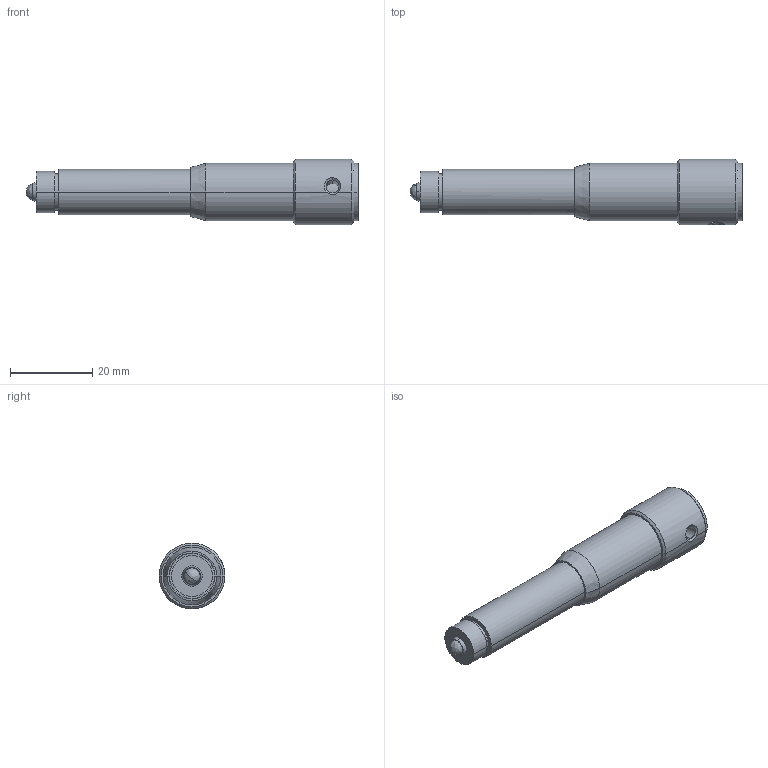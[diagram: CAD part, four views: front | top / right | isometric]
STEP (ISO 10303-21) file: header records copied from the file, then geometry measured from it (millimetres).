
FILE_DESCRIPTION (( 'STEP AP203' ), '1' );
FILE_NAME ('9S75M-25.STEP', '2008-10-23T21:49:29', ( 'Darius' ), ( '' ), 'SwSTEP 2.0', 'SolidWorks 2003240', '' );
FILE_SCHEMA (( 'CONFIG_CONTROL_DESIGN' ));
Length unit declared in the file: millimetre
Products named in the file (1): 9S75M-25
Bounding box: 80.69 x 16 x 16 mm (x, y, z)
Volume: 7971.7 mm3; surface area: 6869.9 mm2
Topology: 1 solids, 5 shells, 198 faces, 496 edges, 326 vertices
Faces by surface type: bspline 75, plane 62, cylinder 45, cone 16
Entity records: 8440 total; most frequent: CARTESIAN_POINT 4078, ORIENTED_EDGE 988, DIRECTION 674, EDGE_CURVE 494, VERTEX_POINT 326, VECTOR 236, LINE 236, EDGE_LOOP 224
